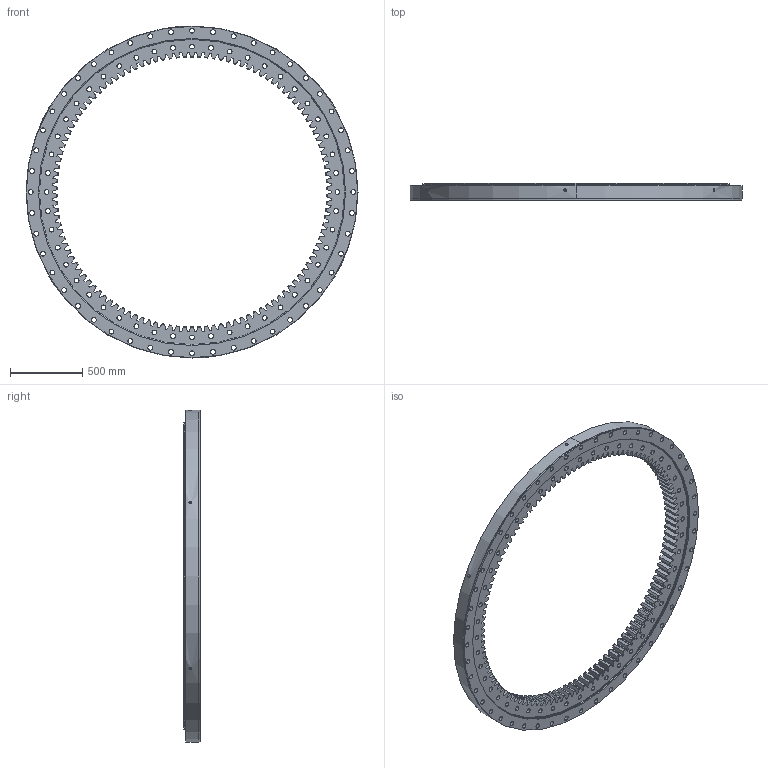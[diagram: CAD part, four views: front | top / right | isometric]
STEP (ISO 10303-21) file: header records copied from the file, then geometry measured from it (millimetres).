
FILE_DESCRIPTION (( 'STEP AP214' ), '1' );
FILE_NAME ('SM2140-1-2304AA.STEP', '2022-11-24T07:41:31', ( '' ), ( '' ), 'SwSTEP 2.0', 'SolidWorks 2020', '' );
FILE_SCHEMA (( 'AUTOMOTIVE_DESIGN' ));
Length unit declared in the file: millimetre
Products named in the file (1): SM2140-1-2304AA
Bounding box: 2304 x 116 x 2304 mm (x, y, z)
Volume: 124817404 mm3; surface area: 7375551.4 mm2
Topology: 4 solids, 4 shells, 1129 faces, 3288 edges, 2189 vertices
Faces by surface type: cylinder 379, plane 266, cone 248, bspline 236
Entity records: 40128 total; most frequent: CARTESIAN_POINT 11455, ORIENTED_EDGE 6576, DIRECTION 5069, EDGE_CURVE 3288, VERTEX_POINT 2189, AXIS2_PLACEMENT_3D 1867, EDGE_LOOP 1363, VECTOR 1335
